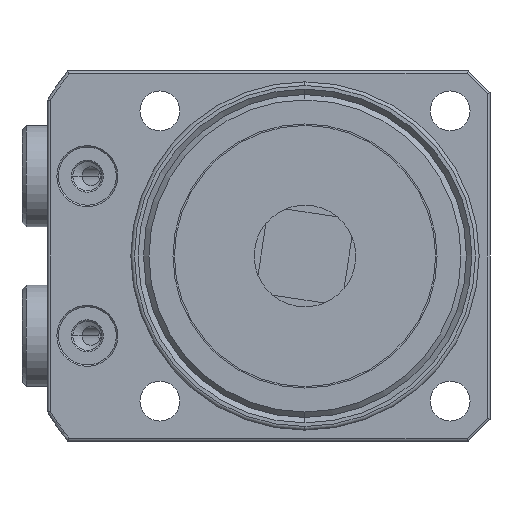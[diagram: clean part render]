
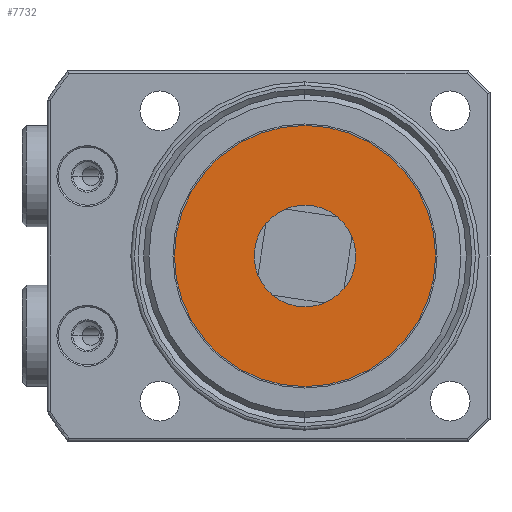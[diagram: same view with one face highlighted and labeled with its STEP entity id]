
A CAD part, front view. The second image highlights one B-rep face of the part: STEP entity #7732.
In plain terms, the highlighted planar face has unit normal (0, -1, 0).
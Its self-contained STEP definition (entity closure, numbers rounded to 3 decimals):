
#126 = DIRECTION ( 'NONE',  ( 0., -1., 0. ) ) ;
#201 = CARTESIAN_POINT ( 'NONE',  ( 0., -7., 0. ) ) ;
#828 = DIRECTION ( 'NONE',  ( 0., 0., -1. ) ) ;
#873 = CIRCLE ( 'NONE', #5254, 18. ) ;
#1175 = ORIENTED_EDGE ( 'NONE', *, *, #6662, .T. ) ;
#1376 = CARTESIAN_POINT ( 'NONE',  ( 0., -7., 0. ) ) ;
#1998 = DIRECTION ( 'NONE',  ( 0., 0., -1. ) ) ;
#2515 = AXIS2_PLACEMENT_3D ( 'NONE', #1376, #5772, #1998 ) ;
#2686 = VERTEX_POINT ( 'NONE', #6507 ) ;
#3462 = EDGE_LOOP ( 'NONE', ( #1175, #5185 ) ) ;
#3896 = CARTESIAN_POINT ( 'NONE',  ( 0., -7., 0. ) ) ;
#4034 = CARTESIAN_POINT ( 'NONE',  ( 0., -7., 18. ) ) ;
#4229 = AXIS2_PLACEMENT_3D ( 'NONE', #201, #4594, #828 ) ;
#4523 = DIRECTION ( 'NONE',  ( 0., 0., -1. ) ) ;
#4594 = DIRECTION ( 'NONE',  ( 0., -1., 0. ) ) ;
#5147 = PLANE ( 'NONE',  #2515 ) ;
#5185 = ORIENTED_EDGE ( 'NONE', *, *, #7788, .T. ) ;
#5254 = AXIS2_PLACEMENT_3D ( 'NONE', #3896, #126, #4523 ) ;
#5727 = VERTEX_POINT ( 'NONE', #4034 ) ;
#5772 = DIRECTION ( 'NONE',  ( 0., -1., 0. ) ) ;
#6507 = CARTESIAN_POINT ( 'NONE',  ( 0., -7., -18. ) ) ;
#6662 = EDGE_CURVE ( 'NONE', #5727, #2686, #873, .T. ) ;
#6822 = FACE_OUTER_BOUND ( 'NONE', #3462, .T. ) ;
#7732 = ADVANCED_FACE ( 'NONE', ( #6822 ), #5147, .T. ) ;
#7788 = EDGE_CURVE ( 'NONE', #2686, #5727, #8079, .T. ) ;
#8079 = CIRCLE ( 'NONE', #4229, 18. ) ;
